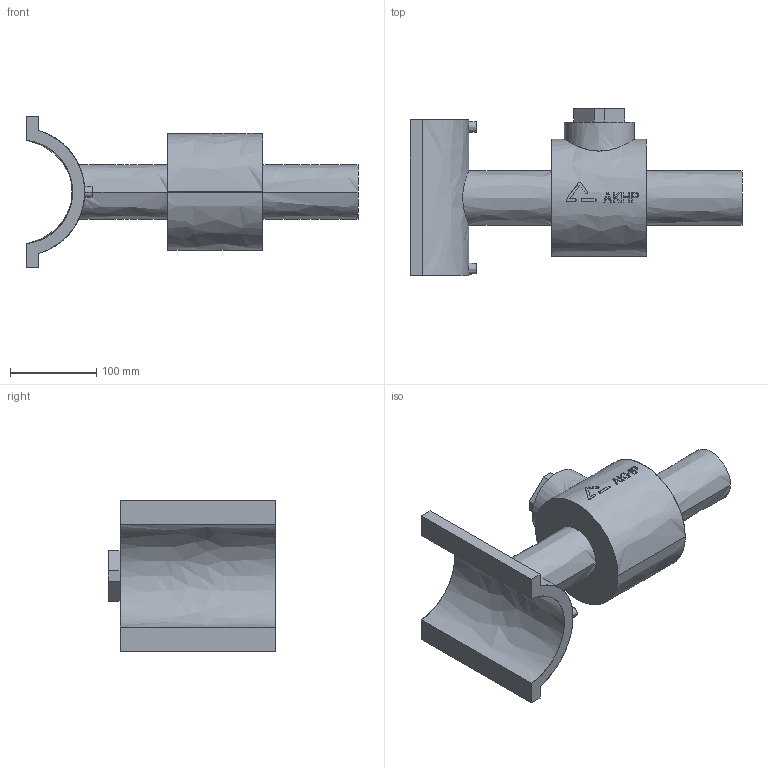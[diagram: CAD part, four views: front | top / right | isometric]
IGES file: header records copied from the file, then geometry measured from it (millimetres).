
Start section:  PTC IGES file: akhp_d110_d63.igs
Global section: file name: akhp_d110_d63.igs; native system: Pro/ENGINEER by Parametric Technology Corporation; preprocessor: 2006140; author: muellerc; organization: Unknown; date: 20060811.084218; units: millimetre
Bounding box: 384 x 193.5 x 175 mm (x, y, z)
Surface area: 215820.1 mm2 (no closed solid volume)
Topology: 0 solids, 0 shells, 123 faces, 674 edges, 680 vertices
Faces by surface type: bspline 123
